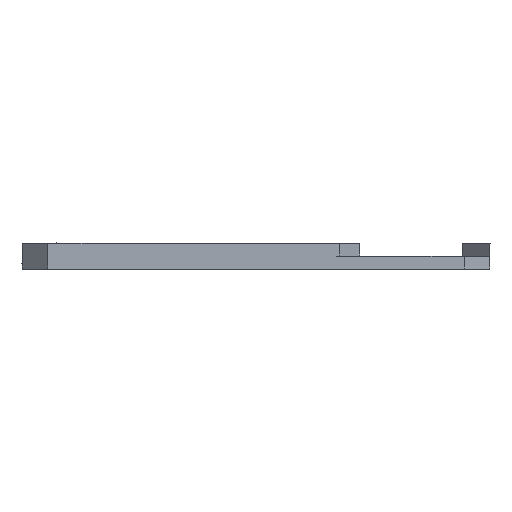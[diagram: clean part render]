
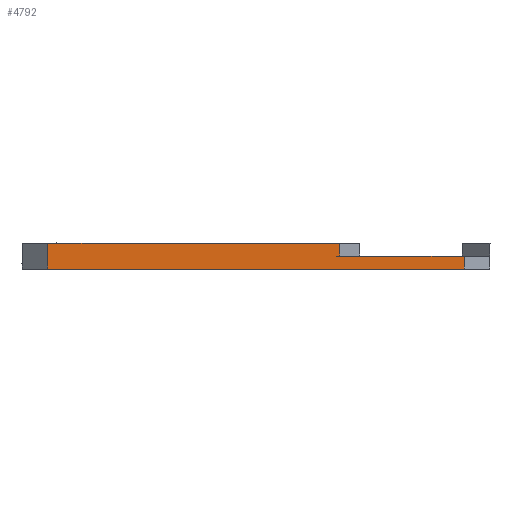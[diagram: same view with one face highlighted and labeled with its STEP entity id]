
A CAD part, front view. The second image highlights one B-rep face of the part: STEP entity #4792.
In plain terms, the highlighted planar face has unit normal (0, -1, 0).
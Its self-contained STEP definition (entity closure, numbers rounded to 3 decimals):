
#53=DIRECTION('',(-1.,0.,0.));
#54=VECTOR('',#53,48.2);
#55=CARTESIAN_POINT('',(23.842,-68.928,0.));
#56=LINE('',#55,#54);
#828=DIRECTION('',(0.,0.,-1.));
#829=VECTOR('',#828,1.5);
#830=CARTESIAN_POINT('',(9.439,-68.928,3.));
#831=LINE('',#830,#829);
#832=DIRECTION('',(-1.,0.,0.));
#833=VECTOR('',#832,14.402);
#834=CARTESIAN_POINT('',(23.842,-68.928,1.5));
#835=LINE('',#834,#833);
#836=DIRECTION('',(0.,0.,-1.));
#837=VECTOR('',#836,3.);
#838=CARTESIAN_POINT('',(-24.358,-68.928,3.));
#839=LINE('',#838,#837);
#840=DIRECTION('',(-1.,0.,0.));
#841=VECTOR('',#840,33.798);
#842=CARTESIAN_POINT('',(9.439,-68.928,3.));
#843=LINE('',#842,#841);
#1110=DIRECTION('',(0.,0.,-1.));
#1111=VECTOR('',#1110,1.5);
#1112=CARTESIAN_POINT('',(23.842,-68.928,1.5));
#1113=LINE('',#1112,#1111);
#3261=CARTESIAN_POINT('',(23.842,-68.928,0.));
#3262=CARTESIAN_POINT('',(-24.358,-68.928,0.));
#3263=VERTEX_POINT('',#3261);
#3264=VERTEX_POINT('',#3262);
#3265=CARTESIAN_POINT('',(9.439,-68.928,3.));
#3266=CARTESIAN_POINT('',(-24.358,-68.928,3.));
#3267=VERTEX_POINT('',#3265);
#3268=VERTEX_POINT('',#3266);
#3269=CARTESIAN_POINT('',(23.842,-68.928,1.5));
#3270=VERTEX_POINT('',#3269);
#3865=CARTESIAN_POINT('',(9.439,-68.928,1.5));
#3866=VERTEX_POINT('',#3865);
#4776=CARTESIAN_POINT('',(-29.355,-68.928,
-0.477));
#4777=DIRECTION('',(0.,-1.,0.));
#4778=DIRECTION('',(1.,0.,0.));
#4779=AXIS2_PLACEMENT_3D('',#4776,#4777,#4778);
#4780=PLANE('',#4779);
#4781=ORIENTED_EDGE('',*,*,#4767,.T.);
#4783=ORIENTED_EDGE('',*,*,#4782,.F.);
#4785=ORIENTED_EDGE('',*,*,#4784,.T.);
#4786=ORIENTED_EDGE('',*,*,#4186,.T.);
#4788=ORIENTED_EDGE('',*,*,#4787,.F.);
#4789=ORIENTED_EDGE('',*,*,#4536,.F.);
#4790=EDGE_LOOP('',(#4781,#4783,#4785,#4786,#4788,#4789));
#4791=FACE_OUTER_BOUND('',#4790,.F.);
#4792=ADVANCED_FACE('',(#4791),#4780,.T.);
#4186=EDGE_CURVE('',#3263,#3264,#56,.T.);
#4536=EDGE_CURVE('',#3267,#3268,#843,.T.);
#4767=EDGE_CURVE('',#3267,#3866,#831,.T.);
#4782=EDGE_CURVE('',#3270,#3866,#835,.T.);
#4784=EDGE_CURVE('',#3270,#3263,#1113,.T.);
#4787=EDGE_CURVE('',#3268,#3264,#839,.T.);
